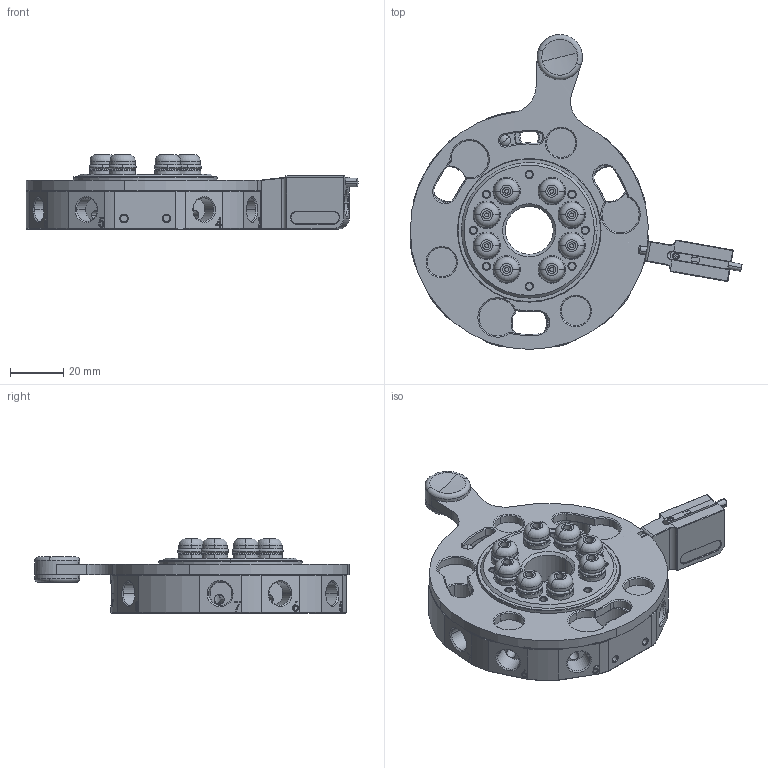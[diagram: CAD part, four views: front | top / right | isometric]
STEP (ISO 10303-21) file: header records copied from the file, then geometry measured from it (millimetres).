
FILE_DESCRIPTION (( 'STEP AP203' ), '1' );
FILE_NAME ('QC-R90K(G) .STEP', '2025-03-10T07:29:13', ( '' ), ( '' ), 'SwSTEP 2.0', 'SolidWorks 2022', '' );
FILE_SCHEMA (( 'CONFIG_CONTROL_DESIGN' ));
Length unit declared in the file: millimetre
Products named in the file (11): QC-R90K(G) .sldasm-Part-4; QC-R90K(G) .sldasm-Part-2; QC-R90K(G) .sldasm-Part-5; QC-R90K(G) .sldasm-Part-1; QC-R90K(G) ; QC-R90K(G) .sldasm-Part-10; QC-R90K(G) .sldasm-Part-6; QC-R90K(G) .sldasm-Part-3; QC-R90K(G) .sldasm-Part-8; QC-R90K(G) .sldasm-Part-9; QC-R90K(G) .sldasm-Part-7
Assembly tree (10 placements, depth 2):
  QC-R90K(G) 
    QC-R90K(G) .sldasm-Part-1
    QC-R90K(G) .sldasm-Part-2
    QC-R90K(G) .sldasm-Part-3
    QC-R90K(G) .sldasm-Part-4
    QC-R90K(G) .sldasm-Part-5
    QC-R90K(G) .sldasm-Part-6
    QC-R90K(G) .sldasm-Part-7
    QC-R90K(G) .sldasm-Part-8
    QC-R90K(G) .sldasm-Part-9
    QC-R90K(G) .sldasm-Part-10
Bounding box: 124.79 x 118.32 x 28.16 mm (x, y, z)
Volume: 104053.9 mm3; surface area: 51920.6 mm2
Topology: 10 solids, 26 shells, 1553 faces, 3601 edges, 2228 vertices
Faces by surface type: cylinder 431, cone 430, plane 427, bspline 165, torus 66, sphere 34
Entity records: 61304 total; most frequent: CARTESIAN_POINT 25404, DIRECTION 7273, ORIENTED_EDGE 7144, EDGE_CURVE 3572, AXIS2_PLACEMENT_3D 2916, VERTEX_POINT 2222, EDGE_LOOP 1778, ADVANCED_FACE 1553
